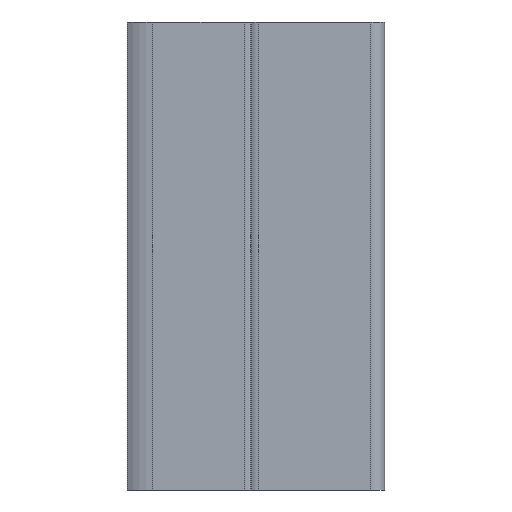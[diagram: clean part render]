
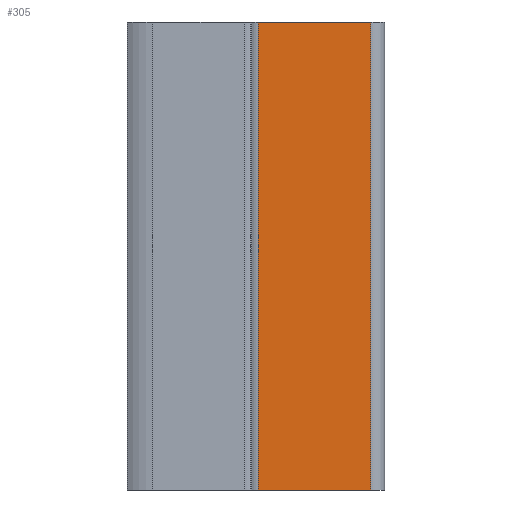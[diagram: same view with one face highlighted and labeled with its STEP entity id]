
A CAD part, left-side view. The second image highlights one B-rep face of the part: STEP entity #305.
In plain terms, the highlighted planar face has unit normal (-1, 0, 0).
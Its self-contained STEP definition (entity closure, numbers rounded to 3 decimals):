
#73 = CARTESIAN_POINT ( 'NONE',  ( -15., -12., 0. ) ) ;
#134 = CARTESIAN_POINT ( 'NONE',  ( -15., -15., 100. ) ) ;
#140 = PLANE ( 'NONE',  #682 ) ;
#212 = DIRECTION ( 'NONE',  ( 0., -1., 0. ) ) ;
#234 = LINE ( 'NONE', #1057, #611 ) ;
#305 = ADVANCED_FACE ( 'NONE', ( #1147 ), #140, .F. ) ;
#310 = ORIENTED_EDGE ( 'NONE', *, *, #702, .T. ) ;
#321 = CARTESIAN_POINT ( 'NONE',  ( -15., -15., 100. ) ) ;
#397 = DIRECTION ( 'NONE',  ( 0., 0., -1. ) ) ;
#406 = LINE ( 'NONE', #1052, #1129 ) ;
#430 = DIRECTION ( 'NONE',  ( 0., 0., -1. ) ) ;
#454 = EDGE_CURVE ( 'NONE', #476, #782, #234, .T. ) ;
#476 = VERTEX_POINT ( 'NONE', #73 ) ;
#481 = DIRECTION ( 'NONE',  ( 0., -1., 0. ) ) ;
#560 = CARTESIAN_POINT ( 'NONE',  ( -15., -15., 0. ) ) ;
#588 = VECTOR ( 'NONE', #212, 1000. ) ;
#597 = EDGE_CURVE ( 'NONE', #907, #1158, #406, .T. ) ;
#611 = VECTOR ( 'NONE', #1053, 1000. ) ;
#682 = AXIS2_PLACEMENT_3D ( 'NONE', #321, #764, #397 ) ;
#702 = EDGE_CURVE ( 'NONE', #1158, #476, #989, .T. ) ;
#731 = EDGE_CURVE ( 'NONE', #907, #782, #819, .T. ) ;
#743 = CARTESIAN_POINT ( 'NONE',  ( -15., -12., 100. ) ) ;
#764 = DIRECTION ( 'NONE',  ( 1., 0., 0. ) ) ;
#782 = VERTEX_POINT ( 'NONE', #743 ) ;
#810 = CARTESIAN_POINT ( 'NONE',  ( -15., 12., 0. ) ) ;
#819 = LINE ( 'NONE', #134, #588 ) ;
#835 = ORIENTED_EDGE ( 'NONE', *, *, #731, .F. ) ;
#868 = VECTOR ( 'NONE', #481, 1000. ) ;
#907 = VERTEX_POINT ( 'NONE', #1029 ) ;
#936 = ORIENTED_EDGE ( 'NONE', *, *, #597, .T. ) ;
#988 = ORIENTED_EDGE ( 'NONE', *, *, #454, .T. ) ;
#989 = LINE ( 'NONE', #560, #868 ) ;
#991 = EDGE_LOOP ( 'NONE', ( #310, #988, #835, #936 ) ) ;
#1029 = CARTESIAN_POINT ( 'NONE',  ( -15., 12., 100. ) ) ;
#1052 = CARTESIAN_POINT ( 'NONE',  ( -15., 12., 100. ) ) ;
#1053 = DIRECTION ( 'NONE',  ( 0., 0., 1. ) ) ;
#1057 = CARTESIAN_POINT ( 'NONE',  ( -15., -12., 100. ) ) ;
#1129 = VECTOR ( 'NONE', #430, 1000. ) ;
#1147 = FACE_OUTER_BOUND ( 'NONE', #991, .T. ) ;
#1158 = VERTEX_POINT ( 'NONE', #810 ) ;
